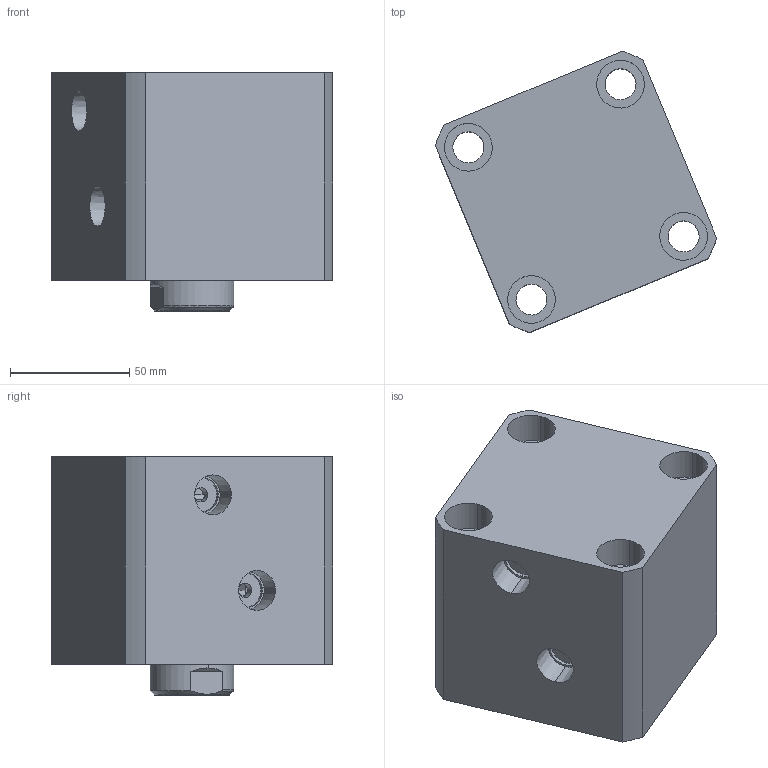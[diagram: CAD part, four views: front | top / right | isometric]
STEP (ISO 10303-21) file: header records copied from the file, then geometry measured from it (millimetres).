
FILE_DESCRIPTION (( 'STEP AP214' ), '1' );
FILE_NAME ('chtb-sd63x20n_asm.STEP', '2018-05-10T01:38:18', ( 'Windows' ), ( 'Microsoft' ), 'SwSTEP 2.0', 'SolidWorks 2015', '' );
FILE_SCHEMA (( 'AUTOMOTIVE_DESIGN' ));
Length unit declared in the file: millimetre
Products named in the file (4): CHTB63X20NHSG; CHTB63X20NBT; CHTB-63QG; chtb-sd63x20n_asm
Assembly tree (3 placements, depth 2):
  chtb-sd63x20n_asm
    CHTB-63QG
    CHTB63X20NBT
    CHTB63X20NHSG
Bounding box: 117.81 x 117.81 x 100 mm (x, y, z)
Volume: 651334.6 mm3; surface area: 119569.5 mm2
Topology: 3 solids, 3 shells, 165 faces, 465 edges, 318 vertices
Faces by surface type: cylinder 101, plane 33, bspline 12, cone 12, torus 7
Entity records: 17638 total; most frequent: CARTESIAN_POINT 13505, ORIENTED_EDGE 918, DIRECTION 719, EDGE_CURVE 459, VERTEX_POINT 318, AXIS2_PLACEMENT_3D 291, EDGE_LOOP 197, ADVANCED_FACE 165
